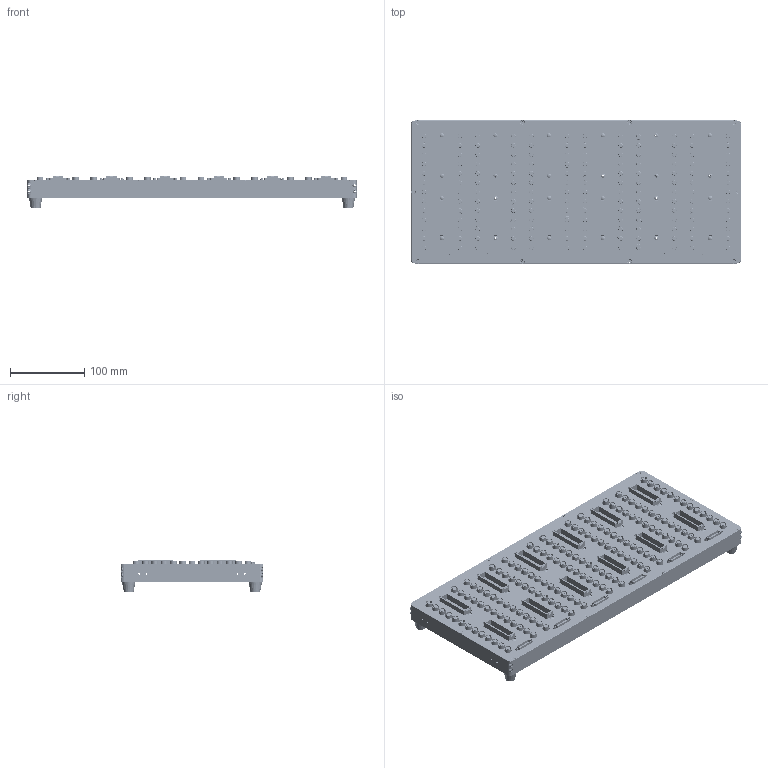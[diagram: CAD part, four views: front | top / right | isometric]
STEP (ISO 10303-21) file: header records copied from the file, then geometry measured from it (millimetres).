
FILE_DESCRIPTION (( 'STEP AP203' ), '1' );
FILE_NAME ('E80.D156-H-煦盄碟.STEP', '2025-07-16T05:20:13', ( 'China' ), ( 'Home' ), 'SwSTEP 2.0', 'SolidWorks 2016', '' );
FILE_SCHEMA (( 'CONFIG_CONTROL_DESIGN' ));
Length unit declared in the file: millimetre
Products named in the file (1): E80.D156-H-煦盄碟
Bounding box: 442.2 x 192.2 x 44.1 mm (x, y, z)
Surface area: 446279.3 mm2 (no closed solid volume)
Topology: 0 solids, 511 shells, 4148 faces, 18444 edges, 14534 vertices
Faces by surface type: cylinder 2271, plane 1342, torus 312, cone 142, sphere 72, bspline 9
Entity records: 205383 total; most frequent: CARTESIAN_POINT 50279, DIRECTION 34471, ORIENTED_EDGE 26253, EDGE_CURVE 18444, VERTEX_POINT 14534, AXIS2_PLACEMENT_3D 13207, CIRCLE 9067, LINE 8057
